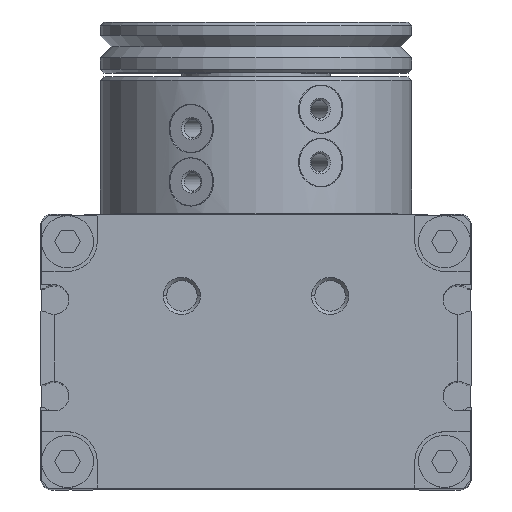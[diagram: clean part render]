
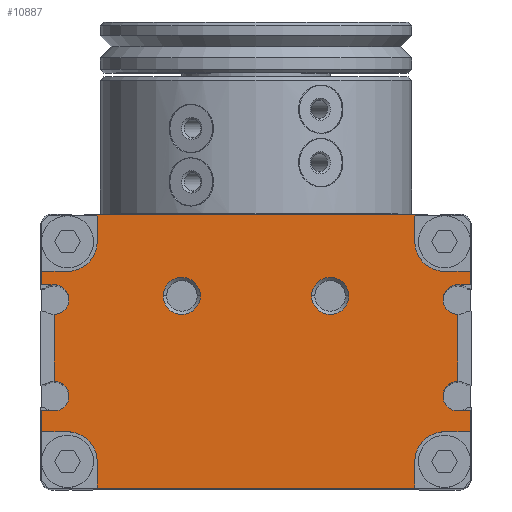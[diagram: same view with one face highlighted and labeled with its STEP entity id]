
A CAD part, top view. The second image highlights one B-rep face of the part: STEP entity #10887.
In plain terms, the highlighted planar face has unit normal (0, 0, 1).
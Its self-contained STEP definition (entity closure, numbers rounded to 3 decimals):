
#2839=DIRECTION('',(1.,0.,0.));
#2840=VECTOR('',#2839,3.5);
#2841=CARTESIAN_POINT('',(-28.9,10.79,52.));
#2842=LINE('',#2841,#2840);
#2846=CARTESIAN_POINT('',(-25.4,14.79,52.));
#2847=DIRECTION('',(0.,0.,1.));
#2848=DIRECTION('',(0.,-1.,0.));
#2849=AXIS2_PLACEMENT_3D('',#2846,#2847,#2848);
#2854=DIRECTION('',(0.,-1.,0.));
#2855=VECTOR('',#2854,3.6);
#2856=CARTESIAN_POINT('',(-21.4,18.39,52.));
#2857=LINE('',#2856,#2855);
#2861=DIRECTION('',(-1.,0.,0.));
#2862=VECTOR('',#2861,42.8);
#2863=CARTESIAN_POINT('',(21.4,18.39,52.));
#2864=LINE('',#2863,#2862);
#2868=DIRECTION('',(0.,-1.,0.));
#2869=VECTOR('',#2868,3.6);
#2870=CARTESIAN_POINT('',(21.4,18.39,52.));
#2871=LINE('',#2870,#2869);
#2875=CARTESIAN_POINT('',(25.4,14.79,52.));
#2876=DIRECTION('',(0.,0.,1.));
#2877=DIRECTION('',(-1.,0.,0.));
#2878=AXIS2_PLACEMENT_3D('',#2875,#2876,#2877);
#2883=DIRECTION('',(-1.,0.,0.));
#2884=VECTOR('',#2883,3.5);
#2885=CARTESIAN_POINT('',(28.9,10.79,52.));
#2886=LINE('',#2885,#2884);
#2890=DIRECTION('',(0.,1.,0.));
#2891=VECTOR('',#2890,1.8);
#2892=CARTESIAN_POINT('',(28.9,8.99,52.));
#2893=LINE('',#2892,#2891);
#2897=DIRECTION('',(1.,0.,0.));
#2898=VECTOR('',#2897,1.7);
#2899=CARTESIAN_POINT('',(27.2,8.99,52.));
#2900=LINE('',#2899,#2898);
#2904=CARTESIAN_POINT('',(27.2,6.99,52.));
#2905=DIRECTION('',(0.,0.,-1.));
#2906=DIRECTION('',(0.,-1.,0.));
#2907=AXIS2_PLACEMENT_3D('',#2904,#2905,#2906);
#2912=DIRECTION('',(0.,1.,0.));
#2913=VECTOR('',#2912,9.);
#2914=CARTESIAN_POINT('',(27.2,-4.01,52.));
#2915=LINE('',#2914,#2913);
#2919=CARTESIAN_POINT('',(27.2,-6.01,52.));
#2920=DIRECTION('',(0.,0.,-1.));
#2921=DIRECTION('',(0.,-1.,0.));
#2922=AXIS2_PLACEMENT_3D('',#2919,#2920,#2921);
#2927=DIRECTION('',(-1.,0.,0.));
#2928=VECTOR('',#2927,1.7);
#2929=CARTESIAN_POINT('',(28.9,-8.01,52.));
#2930=LINE('',#2929,#2928);
#2934=DIRECTION('',(0.,1.,0.));
#2935=VECTOR('',#2934,2.798);
#2936=CARTESIAN_POINT('',(28.9,-10.808,52.));
#2937=LINE('',#2936,#2935);
#2941=DIRECTION('',(-1.,0.,0.));
#2942=VECTOR('',#2941,3.5);
#2943=CARTESIAN_POINT('',(28.9,-10.808,52.));
#2944=LINE('',#2943,#2942);
#2948=CARTESIAN_POINT('',(25.4,-14.808,52.));
#2949=DIRECTION('',(0.,0.,1.));
#2950=DIRECTION('',(0.,1.,0.));
#2951=AXIS2_PLACEMENT_3D('',#2948,#2949,#2950);
#2956=DIRECTION('',(0.,1.,0.));
#2957=VECTOR('',#2956,3.6);
#2958=CARTESIAN_POINT('',(21.4,-18.408,52.));
#2959=LINE('',#2958,#2957);
#2963=DIRECTION('',(1.,0.,0.));
#2964=VECTOR('',#2963,42.8);
#2965=CARTESIAN_POINT('',(-21.4,-18.408,52.));
#2966=LINE('',#2965,#2964);
#2970=DIRECTION('',(0.,1.,0.));
#2971=VECTOR('',#2970,3.6);
#2972=CARTESIAN_POINT('',(-21.4,-18.408,52.));
#2973=LINE('',#2972,#2971);
#2977=CARTESIAN_POINT('',(-25.4,-14.808,52.));
#2978=DIRECTION('',(0.,0.,1.));
#2979=DIRECTION('',(1.,0.,0.));
#2980=AXIS2_PLACEMENT_3D('',#2977,#2978,#2979);
#2985=DIRECTION('',(1.,0.,0.));
#2986=VECTOR('',#2985,3.5);
#2987=CARTESIAN_POINT('',(-28.9,-10.808,52.));
#2988=LINE('',#2987,#2986);
#2992=DIRECTION('',(0.,-1.,0.));
#2993=VECTOR('',#2992,2.798);
#2994=CARTESIAN_POINT('',(-28.9,-8.01,52.));
#2995=LINE('',#2994,#2993);
#2999=DIRECTION('',(-1.,0.,0.));
#3000=VECTOR('',#2999,1.7);
#3001=CARTESIAN_POINT('',(-27.2,-8.01,52.));
#3002=LINE('',#3001,#3000);
#3006=CARTESIAN_POINT('',(-27.2,-6.01,52.));
#3007=DIRECTION('',(0.,0.,-1.));
#3008=DIRECTION('',(0.,1.,0.));
#3009=AXIS2_PLACEMENT_3D('',#3006,#3007,#3008);
#3014=DIRECTION('',(0.,-1.,0.));
#3015=VECTOR('',#3014,9.);
#3016=CARTESIAN_POINT('',(-27.2,4.99,52.));
#3017=LINE('',#3016,#3015);
#3021=CARTESIAN_POINT('',(-27.2,6.99,52.));
#3022=DIRECTION('',(0.,0.,-1.));
#3023=DIRECTION('',(0.,1.,0.));
#3024=AXIS2_PLACEMENT_3D('',#3021,#3022,#3023);
#3029=DIRECTION('',(1.,0.,0.));
#3030=VECTOR('',#3029,1.7);
#3031=CARTESIAN_POINT('',(-28.9,8.99,52.));
#3032=LINE('',#3031,#3030);
#3036=DIRECTION('',(0.,-1.,0.));
#3037=VECTOR('',#3036,1.8);
#3038=CARTESIAN_POINT('',(-28.9,10.79,52.));
#3039=LINE('',#3038,#3037);
#4332=CARTESIAN_POINT('',(-10.,7.49,52.));
#4333=DIRECTION('',(0.,0.,1.));
#4334=DIRECTION('',(1.,0.,0.));
#4335=AXIS2_PLACEMENT_3D('',#4332,#4333,#4334);
#4348=CARTESIAN_POINT('',(-10.,7.49,52.));
#4349=DIRECTION('',(0.,0.,1.));
#4350=DIRECTION('',(-1.,0.,0.));
#4351=AXIS2_PLACEMENT_3D('',#4348,#4349,#4350);
#4431=CARTESIAN_POINT('',(10.,7.49,52.));
#4432=DIRECTION('',(0.,0.,1.));
#4433=DIRECTION('',(1.,0.,0.));
#4434=AXIS2_PLACEMENT_3D('',#4431,#4432,#4433);
#4447=CARTESIAN_POINT('',(10.,7.49,52.));
#4448=DIRECTION('',(0.,0.,1.));
#4449=DIRECTION('',(-1.,0.,0.));
#4450=AXIS2_PLACEMENT_3D('',#4447,#4448,#4449);
#7613=CARTESIAN_POINT('',(-28.9,10.79,52.));
#7614=CARTESIAN_POINT('',(-25.4,10.79,52.));
#7615=VERTEX_POINT('',#7613);
#7616=VERTEX_POINT('',#7614);
#7617=CARTESIAN_POINT('',(-21.4,14.79,52.));
#7618=VERTEX_POINT('',#7617);
#7619=CARTESIAN_POINT('',(-21.4,18.39,52.));
#7620=VERTEX_POINT('',#7619);
#7621=CARTESIAN_POINT('',(-21.4,-18.408,52.));
#7622=CARTESIAN_POINT('',(-21.4,-14.808,52.));
#7623=VERTEX_POINT('',#7621);
#7624=VERTEX_POINT('',#7622);
#7625=CARTESIAN_POINT('',(-25.4,-10.808,52.));
#7626=VERTEX_POINT('',#7625);
#7627=CARTESIAN_POINT('',(-28.9,-10.808,52.));
#7628=VERTEX_POINT('',#7627);
#7629=CARTESIAN_POINT('',(21.4,18.39,52.));
#7630=CARTESIAN_POINT('',(21.4,14.79,52.));
#7631=VERTEX_POINT('',#7629);
#7632=VERTEX_POINT('',#7630);
#7633=CARTESIAN_POINT('',(25.4,10.79,52.));
#7634=VERTEX_POINT('',#7633);
#7635=CARTESIAN_POINT('',(28.9,10.79,52.));
#7636=VERTEX_POINT('',#7635);
#7637=CARTESIAN_POINT('',(28.9,-10.808,52.));
#7638=CARTESIAN_POINT('',(25.4,-10.808,52.));
#7639=VERTEX_POINT('',#7637);
#7640=VERTEX_POINT('',#7638);
#7641=CARTESIAN_POINT('',(21.4,-14.808,52.));
#7642=VERTEX_POINT('',#7641);
#7643=CARTESIAN_POINT('',(21.4,-18.408,52.));
#7644=VERTEX_POINT('',#7643);
#7653=CARTESIAN_POINT('',(-28.9,8.99,52.));
#7654=VERTEX_POINT('',#7653);
#7743=CARTESIAN_POINT('',(12.5,7.49,52.));
#7744=CARTESIAN_POINT('',(7.5,7.49,52.));
#7745=VERTEX_POINT('',#7743);
#7746=VERTEX_POINT('',#7744);
#7751=CARTESIAN_POINT('',(-7.5,7.49,52.));
#7752=CARTESIAN_POINT('',(-12.5,7.49,52.));
#7753=VERTEX_POINT('',#7751);
#7754=VERTEX_POINT('',#7752);
#7763=CARTESIAN_POINT('',(-28.9,-8.01,52.));
#7764=VERTEX_POINT('',#7763);
#7905=CARTESIAN_POINT('',(-27.2,8.99,52.));
#7906=VERTEX_POINT('',#7905);
#7907=CARTESIAN_POINT('',(-27.2,4.99,52.));
#7908=VERTEX_POINT('',#7907);
#7909=CARTESIAN_POINT('',(-27.2,-4.01,52.));
#7910=VERTEX_POINT('',#7909);
#7911=CARTESIAN_POINT('',(-27.2,-8.01,52.));
#7912=VERTEX_POINT('',#7911);
#7979=CARTESIAN_POINT('',(28.9,-8.01,52.));
#7980=CARTESIAN_POINT('',(27.2,-8.01,52.));
#7981=VERTEX_POINT('',#7979);
#7982=VERTEX_POINT('',#7980);
#7983=CARTESIAN_POINT('',(27.2,-4.01,52.));
#7984=VERTEX_POINT('',#7983);
#7985=CARTESIAN_POINT('',(27.2,4.99,52.));
#7986=VERTEX_POINT('',#7985);
#7987=CARTESIAN_POINT('',(27.2,8.99,52.));
#7988=VERTEX_POINT('',#7987);
#7989=CARTESIAN_POINT('',(28.9,8.99,52.));
#7990=VERTEX_POINT('',#7989);
#10813=CARTESIAN_POINT('',(0.,0.,52.));
#10814=DIRECTION('',(0.,0.,1.));
#10815=DIRECTION('',(1.,0.,0.));
#10816=AXIS2_PLACEMENT_3D('',#10813,#10814,#10815);
#10817=PLANE('',#10816);
#10819=ORIENTED_EDGE('',*,*,#10818,.T.);
#10821=ORIENTED_EDGE('',*,*,#10820,.T.);
#10823=ORIENTED_EDGE('',*,*,#10822,.F.);
#10824=ORIENTED_EDGE('',*,*,#10715,.F.);
#10826=ORIENTED_EDGE('',*,*,#10825,.T.);
#10828=ORIENTED_EDGE('',*,*,#10827,.T.);
#10830=ORIENTED_EDGE('',*,*,#10829,.F.);
#10832=ORIENTED_EDGE('',*,*,#10831,.F.);
#10834=ORIENTED_EDGE('',*,*,#10833,.F.);
#10836=ORIENTED_EDGE('',*,*,#10835,.F.);
#10838=ORIENTED_EDGE('',*,*,#10837,.F.);
#10840=ORIENTED_EDGE('',*,*,#10839,.F.);
#10842=ORIENTED_EDGE('',*,*,#10841,.F.);
#10844=ORIENTED_EDGE('',*,*,#10843,.F.);
#10846=ORIENTED_EDGE('',*,*,#10845,.T.);
#10848=ORIENTED_EDGE('',*,*,#10847,.T.);
#10850=ORIENTED_EDGE('',*,*,#10849,.F.);
#10852=ORIENTED_EDGE('',*,*,#10851,.F.);
#10854=ORIENTED_EDGE('',*,*,#10853,.T.);
#10856=ORIENTED_EDGE('',*,*,#10855,.T.);
#10858=ORIENTED_EDGE('',*,*,#10857,.F.);
#10860=ORIENTED_EDGE('',*,*,#10859,.F.);
#10862=ORIENTED_EDGE('',*,*,#10861,.F.);
#10864=ORIENTED_EDGE('',*,*,#10863,.F.);
#10866=ORIENTED_EDGE('',*,*,#10865,.F.);
#10868=ORIENTED_EDGE('',*,*,#10867,.F.);
#10870=ORIENTED_EDGE('',*,*,#10869,.F.);
#10872=ORIENTED_EDGE('',*,*,#10871,.F.);
#10873=EDGE_LOOP('',(#10819,#10821,#10823,#10824,#10826,#10828,#10830,#10832,
#10834,#10836,#10838,#10840,#10842,#10844,#10846,#10848,#10850,#10852,#10854,
#10856,#10858,#10860,#10862,#10864,#10866,#10868,#10870,#10872));
#10874=FACE_OUTER_BOUND('',#10873,.F.);
#10876=ORIENTED_EDGE('',*,*,#10875,.T.);
#10878=ORIENTED_EDGE('',*,*,#10877,.T.);
#10879=EDGE_LOOP('',(#10876,#10878));
#10880=FACE_BOUND('',#10879,.F.);
#10882=ORIENTED_EDGE('',*,*,#10881,.T.);
#10884=ORIENTED_EDGE('',*,*,#10883,.T.);
#10885=EDGE_LOOP('',(#10882,#10884));
#10886=FACE_BOUND('',#10885,.F.);
#10887=ADVANCED_FACE('',(#10874,#10880,#10886),#10817,.T.);
#2850=CIRCLE('',#2849,4.);
#2879=CIRCLE('',#2878,4.);
#2908=CIRCLE('',#2907,2.);
#2923=CIRCLE('',#2922,2.);
#2952=CIRCLE('',#2951,4.);
#2981=CIRCLE('',#2980,4.);
#3010=CIRCLE('',#3009,2.);
#3025=CIRCLE('',#3024,2.);
#4336=CIRCLE('',#4335,2.5);
#4352=CIRCLE('',#4351,2.5);
#4435=CIRCLE('',#4434,2.5);
#4451=CIRCLE('',#4450,2.5);
#10715=EDGE_CURVE('',#7631,#7620,#2864,.T.);
#10818=EDGE_CURVE('',#7615,#7616,#2842,.T.);
#10820=EDGE_CURVE('',#7616,#7618,#2850,.T.);
#10822=EDGE_CURVE('',#7620,#7618,#2857,.T.);
#10825=EDGE_CURVE('',#7631,#7632,#2871,.T.);
#10827=EDGE_CURVE('',#7632,#7634,#2879,.T.);
#10829=EDGE_CURVE('',#7636,#7634,#2886,.T.);
#10831=EDGE_CURVE('',#7990,#7636,#2893,.T.);
#10833=EDGE_CURVE('',#7988,#7990,#2900,.T.);
#10835=EDGE_CURVE('',#7986,#7988,#2908,.T.);
#10837=EDGE_CURVE('',#7984,#7986,#2915,.T.);
#10839=EDGE_CURVE('',#7982,#7984,#2923,.T.);
#10841=EDGE_CURVE('',#7981,#7982,#2930,.T.);
#10843=EDGE_CURVE('',#7639,#7981,#2937,.T.);
#10845=EDGE_CURVE('',#7639,#7640,#2944,.T.);
#10847=EDGE_CURVE('',#7640,#7642,#2952,.T.);
#10849=EDGE_CURVE('',#7644,#7642,#2959,.T.);
#10851=EDGE_CURVE('',#7623,#7644,#2966,.T.);
#10853=EDGE_CURVE('',#7623,#7624,#2973,.T.);
#10855=EDGE_CURVE('',#7624,#7626,#2981,.T.);
#10857=EDGE_CURVE('',#7628,#7626,#2988,.T.);
#10859=EDGE_CURVE('',#7764,#7628,#2995,.T.);
#10861=EDGE_CURVE('',#7912,#7764,#3002,.T.);
#10863=EDGE_CURVE('',#7910,#7912,#3010,.T.);
#10865=EDGE_CURVE('',#7908,#7910,#3017,.T.);
#10867=EDGE_CURVE('',#7906,#7908,#3025,.T.);
#10869=EDGE_CURVE('',#7654,#7906,#3032,.T.);
#10871=EDGE_CURVE('',#7615,#7654,#3039,.T.);
#10875=EDGE_CURVE('',#7753,#7754,#4336,.T.);
#10877=EDGE_CURVE('',#7754,#7753,#4352,.T.);
#10881=EDGE_CURVE('',#7745,#7746,#4435,.T.);
#10883=EDGE_CURVE('',#7746,#7745,#4451,.T.);
